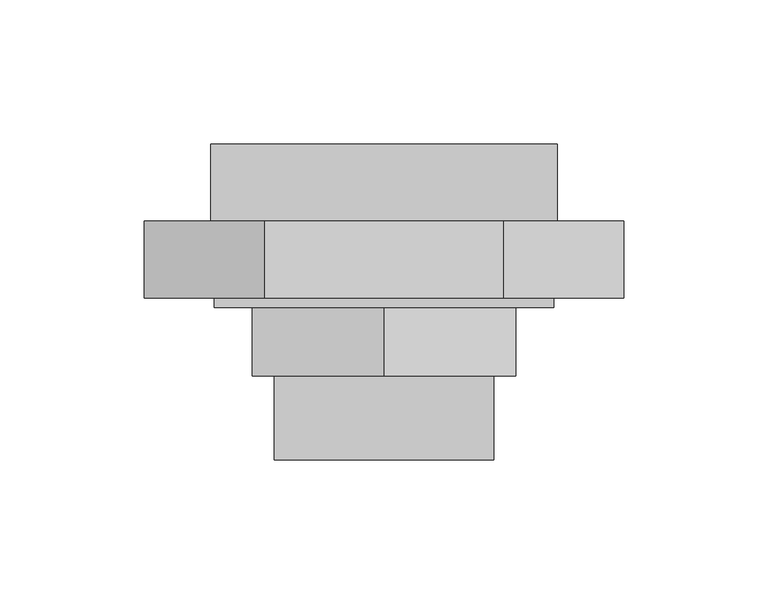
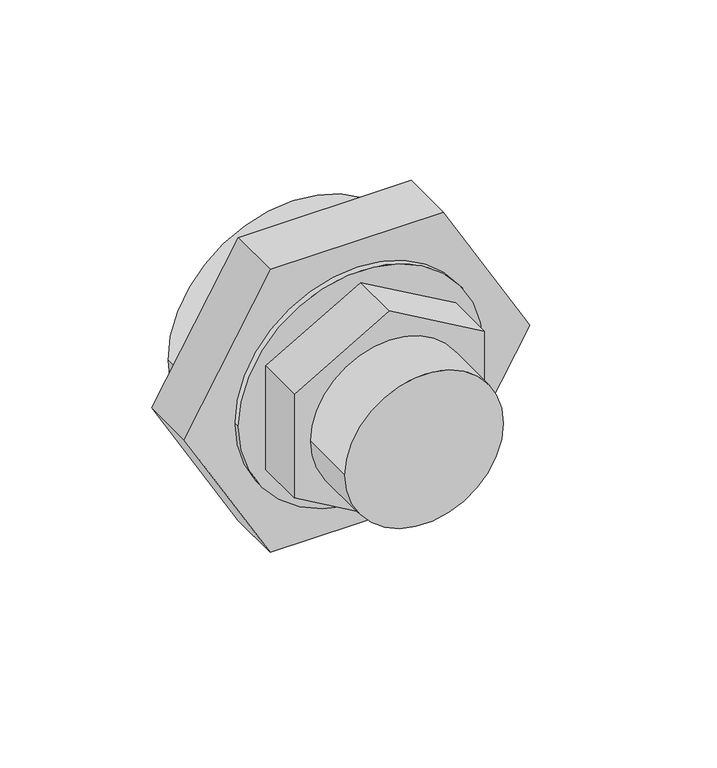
"""IFC4 building model written with IfcOpenShell, lengths in millimetres: pipe fitting geometry, EGB_VASEN_ PPR_Enlace desmontable rosca macho WXR103 : Enlace desmontable rosca macho WXR103."""

from ifc_helpers import new_model, si_unit, point, frame, origin, origin_2d, place, context, project, spatial, polyline, circle_curve, trimmed, segment, composite_curve, outline, extrude, source, transform, mapped, element, save


def pipe_fitting_38769f7b(model_context):
    return source(origin(), model_context, "Body", "SweptSolid", [
        extrude(outline(polyline([(-26.3964543, -45.72), (-52.7929086, 0.0), (-26.3964543, 45.72), (26.3964543, 45.72), (52.7929086, 0.0), (26.3964543, -45.72), (-26.3964543, -45.72)])), frame((0.0, -53.0879167, 0.0), z_axis=(0.0, 1.0, 0.0), x_axis=(0.0, 0.0, 1.0)), (0.0, 0.0, 1.0), 23.6666667),
        extrude(outline(polyline([(0.0, 83.1384388), (72.0, 41.5692194), (72.0, -41.5692194), (0.0, -83.1384388), (-72.0, -41.5692194), (-72.0, 41.5692194), (0.0, 83.1384388)])), frame((0.0, -26.05375, 0.0), z_axis=(0.0, 1.0, 0.0), x_axis=(0.0, 0.0, 1.0)), (0.0, 0.0, 1.0), 26.6666667),
        extrude(outline(composite_curve([segment(trimmed(circle_curve(origin_2d(), 38.1), [point((0.0, -38.1))], [point((0.0, 38.1))], False, "CARTESIAN"), True, "CONTINUOUS"), segment(trimmed(circle_curve(origin_2d(), 38.1), [point((0.0, 38.1))], [point((0.0, -38.1))], False, "CARTESIAN"), True, "CONTINUOUS")], self_intersect=False)), frame((0.0, -82.2204167, 0.0), z_axis=(0.0, 1.0, 0.0), x_axis=(0.0, 0.0, 1.0)), (0.0, 0.0, 1.0), 29.5),
        extrude(outline(composite_curve([segment(trimmed(circle_curve(origin_2d(), 58.86), [point((0.0, -58.86))], [point((0.0, 58.86))], False, "CARTESIAN"), True, "CONTINUOUS"), segment(trimmed(circle_curve(origin_2d(), 58.86), [point((0.0, 58.86))], [point((0.0, -58.86))], False, "CARTESIAN"), True, "CONTINUOUS")], self_intersect=False)), frame((0.0, -29.42125, 0.0), z_axis=(0.0, 1.0, 0.0), x_axis=(0.0, 0.0, 1.0)), (0.0, 0.0, 1.0), 3.3675),
        extrude(outline(composite_curve([segment(trimmed(circle_curve(origin_2d(), 60.0), [point((0.0, -60.0))], [point((0.0, 60.0))], False, "CARTESIAN"), True, "CONTINUOUS"), segment(trimmed(circle_curve(origin_2d(), 60.0), [point((0.0, 60.0))], [point((0.0, -60.0))], False, "CARTESIAN"), True, "CONTINUOUS")], self_intersect=False), holes=[composite_curve([segment(trimmed(circle_curve(origin_2d(), 45.0), [point((0.0, -45.0))], [point((0.0, 45.0))], True, "CARTESIAN"), True, "CONTINUOUS"), segment(trimmed(circle_curve(origin_2d(), 45.0), [point((0.0, 45.0))], [point((0.0, -45.0))], True, "CARTESIAN"), True, "CONTINUOUS")], self_intersect=False)]), frame((0.0, 0.6129167, 0.0), z_axis=(0.0, 1.0, 0.0), x_axis=(0.0, 0.0, 1.0)), (0.0, 0.0, 1.0), 26.6666667),
    ])


if __name__ == "__main__":
    model = new_model("IFC4")
    model_context = context("Model", 3, world=origin())
    ifc_project = project(units=[si_unit("LENGTHUNIT", "METRE", prefix="MILLI")], contexts=[model_context])
    site = spatial("IfcSite", under=ifc_project)
    building = spatial("IfcBuilding", under=site)
    placement = place(None, origin())
    pipe_fitting_shape = pipe_fitting_38769f7b(model_context)
    element("IfcPipeFitting", 1, ObjectType="EGB_VASEN_ PPR_Enlace desmontable rosca macho WXR103 : Enlace desmontable rosca macho WXR103", at=placement, inside=building, context=model_context, shape_type="MappedRepresentation", body=[
        mapped(pipe_fitting_shape, transform((0.0, 0.0, 0.0), x_axis=(1.0, 0.0, 0.0), y_axis=(0.0, 1.0, 0.0), z_axis=(0.0, 0.0, 1.0))),
    ])
    save(model, "model.ifc")
